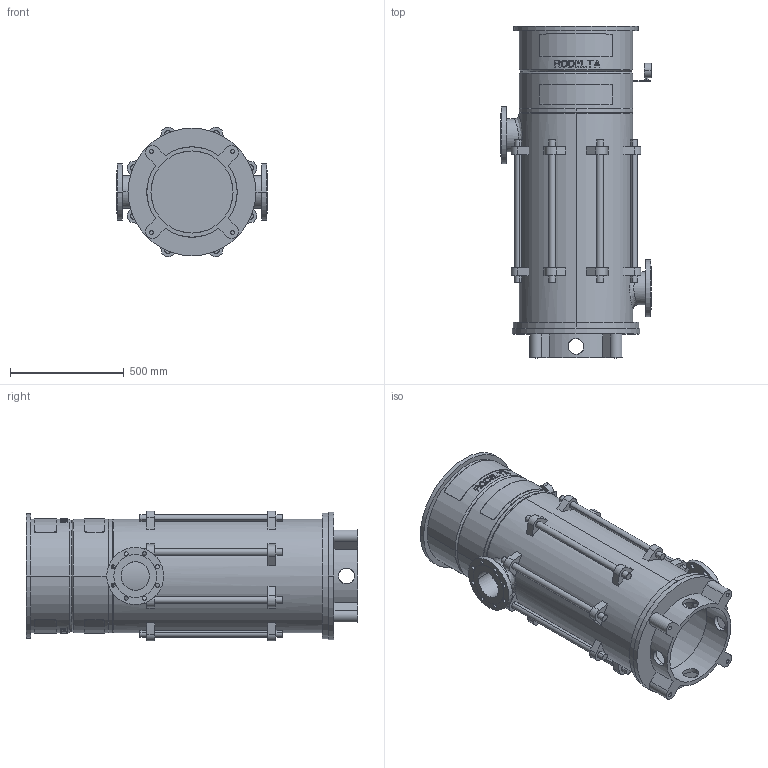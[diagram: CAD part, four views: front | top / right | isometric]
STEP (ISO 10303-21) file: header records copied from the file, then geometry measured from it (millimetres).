
FILE_DESCRIPTION((''),'2;1');
FILE_NAME('LS5_5TR_0GR_ABOVE_30KW','2023-08-08T',('Lyritlocal'),(''),'PRO/ENGINEER BY PARAMETRIC TECHNOLOGY CORPORATION, 2016360','PRO/ENGINEER BY PARAMETRIC TECHNOLOGY CORPORATION, 2016360','');
FILE_SCHEMA(('CONFIG_CONTROL_DESIGN'));
Length unit declared in the file: millimetre
Products named in the file (1): LS5_5TR_0GR_ABOVE_30KW
Bounding box: 660 x 1456 x 568.08 mm (x, y, z)
Volume: 44157470.5 mm3; surface area: 6451066.7 mm2
Topology: 3 solids, 7 shells, 672 faces, 1747 edges, 1158 vertices
Faces by surface type: plane 414, cylinder 242, cone 12, bspline 4
Entity records: 21994 total; most frequent: CARTESIAN_POINT 5550, ORIENTED_EDGE 3478, DIRECTION 3269, EDGE_CURVE 1747, AXIS2_PLACEMENT_3D 1241, VERTEX_POINT 1158, EDGE_LOOP 809, VECTOR 787
